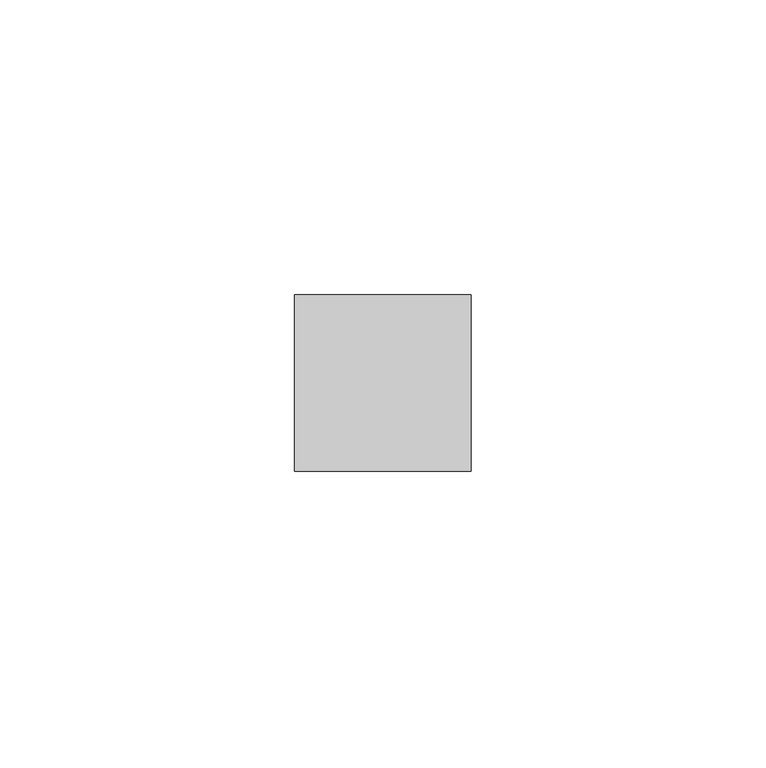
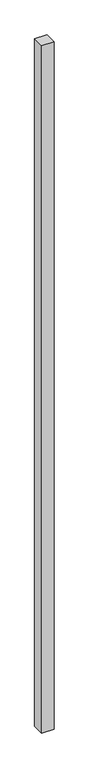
"""IFC4 building model written with IfcOpenShell, lengths in millimetres: member geometry, 矩形竖梃 : 30mm 正方形."""

from ifc_helpers import new_model, si_unit, frame, origin, place, context, project, spatial, polyline, outline, extrude, source, transform, mapped, element, save


def member_e4ffa79e(model_context):
    return source(origin(), model_context, "Body", "SweptSolid", [
        extrude(outline(polyline([(15.0, 15.0), (15.0, -15.0), (-15.0, -15.0), (-15.0, 15.0), (15.0, 15.0)])), frame((0.0, 0.0, -1788.3333333), z_axis=(0.0, 0.0, 1.0), x_axis=(1.0, 0.0, 0.0)), (0.0, 0.0, 1.0), 1788.3333333),
    ])


if __name__ == "__main__":
    model = new_model("IFC4")
    model_context = context("Model", 3, world=origin())
    ifc_project = project(units=[si_unit("LENGTHUNIT", "METRE", prefix="MILLI")], contexts=[model_context])
    site = spatial("IfcSite", under=ifc_project)
    building = spatial("IfcBuilding", under=site)
    placement = place(None, origin())
    member_shape = member_e4ffa79e(model_context)
    element("IfcMember", 1, ObjectType="矩形竖梃 : 30mm 正方形", at=placement, inside=building, context=model_context, shape_type="MappedRepresentation", body=[
        mapped(member_shape, transform((0.0, 0.0, 0.0), x_axis=(1.0, 0.0, 0.0), y_axis=(0.0, 1.0, 0.0), z_axis=(0.0, 0.0, 1.0))),
    ])
    save(model, "model.ifc")
